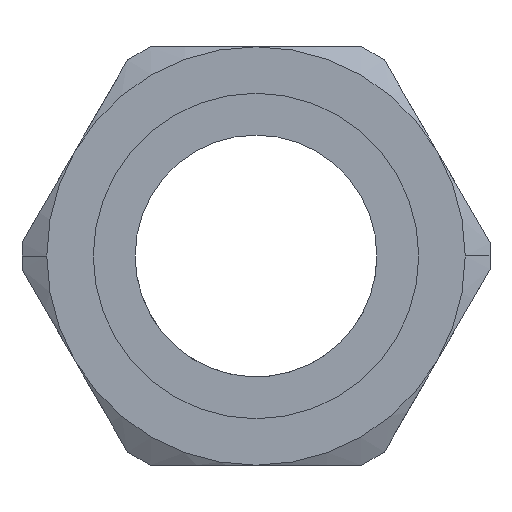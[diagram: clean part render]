
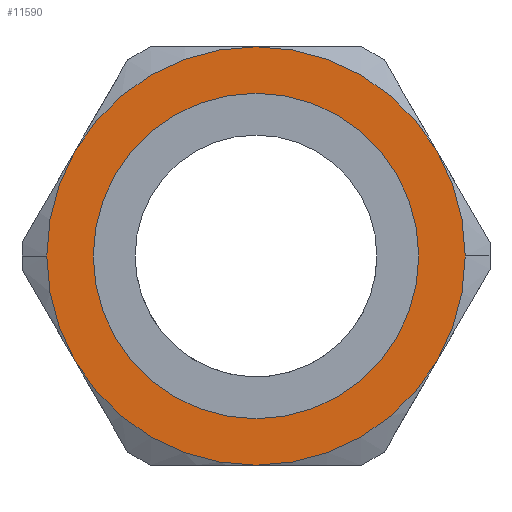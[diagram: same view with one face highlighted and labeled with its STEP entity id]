
A CAD part, front view. The second image highlights one B-rep face of the part: STEP entity #11590.
In plain terms, the highlighted planar face has unit normal (0, -1, 0).
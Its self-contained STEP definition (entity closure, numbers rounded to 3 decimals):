
#1610=CARTESIAN_POINT('',(59.057,31.56,6.75));
#1620=VERTEX_POINT('',#1610);
#4210=CARTESIAN_POINT('',(35.674,31.56,6.75));
#4220=VERTEX_POINT('',#4210);
#6280=CARTESIAN_POINT('',(47.366,31.56,13.5));
#6290=VERTEX_POINT('',#6280);
#8970=CARTESIAN_POINT('',(59.057,31.56,-6.75));
#8980=VERTEX_POINT('',#8970);
#10800=CARTESIAN_POINT('',(47.366,31.56,0.));
#10810=DIRECTION('',(0.,1.,0.));
#10820=DIRECTION('',(1.,0.,0.));
#10830=AXIS2_PLACEMENT_3D('',#10800,#10810,#10820);
#10840=CIRCLE('',#10830,13.5);
#10850=EDGE_CURVE('',#4220,#6290,#10840,.T.);
#11140=CARTESIAN_POINT('',(55.866,31.56,0.));
#11150=DIRECTION('',(-0.,1.,0.));
#11160=DIRECTION('',(1.,0.,0.));
#11170=AXIS2_PLACEMENT_3D('',#11140,#11150,#11160);
#11180=PLANE('',#11170);
#11190=ORIENTED_EDGE('',*,*,#10850,.F.);
#11200=EDGE_CURVE('',#6290,#1620,#10840,.T.);
#11210=ORIENTED_EDGE('',*,*,#11200,.F.);
#11220=CARTESIAN_POINT('',(60.866,31.56,0.));
#11230=VERTEX_POINT('',#11220);
#11240=EDGE_CURVE('',#1620,#11230,#10840,.T.);
#11250=ORIENTED_EDGE('',*,*,#11240,.F.);
#11260=EDGE_CURVE('',#11230,#8980,#10840,.T.);
#11270=ORIENTED_EDGE('',*,*,#11260,.F.);
#11280=CARTESIAN_POINT('',(47.366,31.56,-13.5));
#11290=VERTEX_POINT('',#11280);
#11300=EDGE_CURVE('',#8980,#11290,#10840,.T.);
#11310=ORIENTED_EDGE('',*,*,#11300,.F.);
#11320=CARTESIAN_POINT('',(35.674,31.56,-6.75));
#11330=VERTEX_POINT('',#11320);
#11340=EDGE_CURVE('',#11290,#11330,#10840,.T.);
#11350=ORIENTED_EDGE('',*,*,#11340,.F.);
#11360=CARTESIAN_POINT('',(33.866,31.56,0.));
#11370=VERTEX_POINT('',#11360);
#11380=EDGE_CURVE('',#11330,#11370,#10840,.T.);
#11390=ORIENTED_EDGE('',*,*,#11380,.F.);
#11400=EDGE_CURVE('',#11370,#4220,#10840,.T.);
#11410=ORIENTED_EDGE('',*,*,#11400,.F.);
#11420=EDGE_LOOP('',(#11410,#11390,#11350,#11310,#11270,#11250,#11210,
#11190));
#11430=FACE_OUTER_BOUND('',#11420,.T.);
#11440=CARTESIAN_POINT('',(47.366,31.56,0.));
#11450=DIRECTION('',(0.,-1.,0.));
#11460=DIRECTION('',(1.,0.,0.));
#11470=AXIS2_PLACEMENT_3D('',#11440,#11450,#11460);
#11480=CIRCLE('',#11470,10.5);
#11490=CARTESIAN_POINT('',(57.866,31.56,0.));
#11500=VERTEX_POINT('',#11490);
#11510=CARTESIAN_POINT('',(36.866,31.56,0.));
#11520=VERTEX_POINT('',#11510);
#11530=EDGE_CURVE('',#11500,#11520,#11480,.T.);
#11540=ORIENTED_EDGE('',*,*,#11530,.F.);
#11550=EDGE_CURVE('',#11520,#11500,#11480,.T.);
#11560=ORIENTED_EDGE('',*,*,#11550,.F.);
#11570=EDGE_LOOP('',(#11560,#11540));
#11580=FACE_BOUND('',#11570,.T.);
#11590=ADVANCED_FACE('',(#11430,#11580),#11180,.F.);
